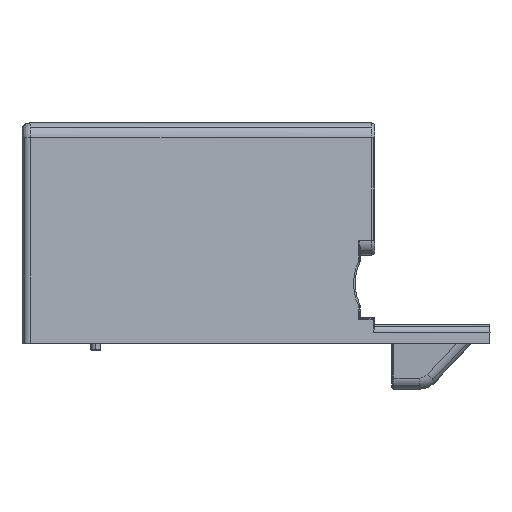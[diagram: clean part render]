
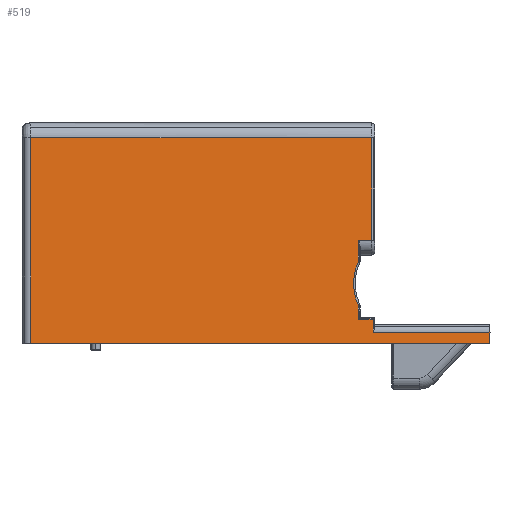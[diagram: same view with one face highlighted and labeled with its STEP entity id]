
A CAD part, left-side view. The second image highlights one B-rep face of the part: STEP entity #519.
In plain terms, the highlighted planar face has unit normal (-0.991, -0.133, 0).
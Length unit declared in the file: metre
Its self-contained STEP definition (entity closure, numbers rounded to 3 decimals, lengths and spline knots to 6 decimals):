
#519=ADVANCED_FACE('0:1061',(#1486),#1487,.T.);
#1486=FACE_OUTER_BOUND('',#7680,.T.);
#1487=PLANE('',#7681);
#7680=EDGE_LOOP('',(#11984,#11985,#11986,#11987,#11988,#11989,#11990,#11991,#11992,#11993,#11994,#11995,#11996,#11997));
#7681=AXIS2_PLACEMENT_3D('',#11998,#11999,#12000);
#11984=ORIENTED_EDGE('',*,*,#12947,.F.);
#11985=ORIENTED_EDGE('',*,*,#13355,.T.);
#11986=ORIENTED_EDGE('',*,*,#13276,.T.);
#11987=ORIENTED_EDGE('',*,*,#13278,.F.);
#11988=ORIENTED_EDGE('',*,*,#12201,.F.);
#11989=ORIENTED_EDGE('',*,*,#13283,.F.);
#11990=ORIENTED_EDGE('',*,*,#13286,.F.);
#11991=ORIENTED_EDGE('',*,*,#13289,.F.);
#11992=ORIENTED_EDGE('',*,*,#13292,.F.);
#11993=ORIENTED_EDGE('',*,*,#12192,.F.);
#11994=ORIENTED_EDGE('',*,*,#13296,.T.);
#11995=ORIENTED_EDGE('',*,*,#13299,.F.);
#11996=ORIENTED_EDGE('',*,*,#13302,.F.);
#11997=ORIENTED_EDGE('',*,*,#13252,.F.);
#11998=CARTESIAN_POINT('',(0.014487,-0.046125,-0.01454));
#11999=DIRECTION('',(-0.991,-0.133,0.));
#12000=DIRECTION('',(0.133,-0.991,0.));
#12192=EDGE_CURVE('0:3590',#13581,#13583,#13584,.T.);
#12201=EDGE_CURVE('0:3545',#13597,#13441,#13599,.T.);
#12947=EDGE_CURVE('0:2231',#14915,#14917,#14918,.T.);
#13252=EDGE_CURVE('0:3428',#14917,#15333,#15334,.T.);
#13276=EDGE_CURVE('0:3512',#15362,#15360,#15363,.T.);
#13278=EDGE_CURVE('0:3527',#13441,#15360,#15365,.T.);
#13283=EDGE_CURVE('0:3554',#15370,#13597,#15372,.T.);
#13286=EDGE_CURVE('0:3563',#15374,#15370,#15376,.T.);
#13289=EDGE_CURVE('0:3572',#15378,#15374,#15380,.T.);
#13292=EDGE_CURVE('0:3581',#13583,#15378,#15383,.T.);
#13296=EDGE_CURVE('0:3596',#13581,#15387,#15389,.T.);
#13299=EDGE_CURVE('0:3614',#15391,#15387,#15393,.T.);
#13302=EDGE_CURVE('0:3620',#15333,#15391,#15396,.T.);
#13355=EDGE_CURVE('0:3815',#14915,#15362,#15462,.T.);
#13441=VERTEX_POINT('',#15566);
#13581=VERTEX_POINT('',#15776);
#13583=VERTEX_POINT('',#15787);
#13584=LINE('',#15788,#15789);
#13597=VERTEX_POINT('',#15805);
#13599=LINE('',#15807,#15808);
#14915=VERTEX_POINT('',#17760);
#14917=VERTEX_POINT('',#17763);
#14918=LINE('',#17764,#17765);
#15333=VERTEX_POINT('',#18736);
#15334=LINE('',#18737,#18738);
#15360=VERTEX_POINT('',#18786);
#15362=VERTEX_POINT('',#18797);
#15363=LINE('',#18798,#18799);
#15365=LINE('',#18801,#18802);
#15370=VERTEX_POINT('',#18808);
#15372=LINE('',#18810,#18811);
#15374=VERTEX_POINT('',#18813);
#15376=ELLIPSE('',#18815,0.000757,0.00075);
#15378=VERTEX_POINT('',#18817);
#15380=ELLIPSE('',#18819,0.007316,0.00725);
#15383=ELLIPSE('',#18822,0.000757,0.00075);
#15387=VERTEX_POINT('',#18836);
#15389=LINE('',#18838,#18839);
#15391=VERTEX_POINT('',#18841);
#15393=LINE('',#18843,#18844);
#15396=LINE('',#18847,#18848);
#15462=LINE('',#18927,#18928);
#15566=CARTESIAN_POINT('',(0.010694,-0.017911,-0.029415));
#15776=CARTESIAN_POINT('',(0.010425,-0.015911,-0.018665));
#15787=CARTESIAN_POINT('',(0.010425,-0.015911,-0.021352));
#15788=CARTESIAN_POINT('',(0.010425,-0.015911,-0.023603));
#15789=VECTOR('',#19195,1.0);
#15805=CARTESIAN_POINT('',(0.010425,-0.015911,-0.029415));
#15807=CARTESIAN_POINT('',(0.012517,-0.031465,-0.029415));
#15808=VECTOR('',#19214,1.0);
#17760=CARTESIAN_POINT('',(0.012834,-0.033826,-0.032665));
#17763=CARTESIAN_POINT('',(0.004423,0.028737,-0.032665));
#17764=CARTESIAN_POINT('',(0.009712,-0.010602,-0.032665));
#17765=VECTOR('',#20440,1.);
#18736=CARTESIAN_POINT('',(0.004423,0.028737,-0.004665));
#18737=CARTESIAN_POINT('',(0.004423,0.028737,-0.023603));
#18738=VECTOR('',#20990,1.0);
#18786=CARTESIAN_POINT('',(0.010694,-0.017911,-0.031165));
#18797=CARTESIAN_POINT('',(0.012834,-0.033826,-0.031165));
#18798=CARTESIAN_POINT('',(0.013215,-0.036658,-0.031165));
#18799=VECTOR('',#21032,1.0);
#18801=CARTESIAN_POINT('',(0.010694,-0.017911,-0.022353));
#18802=VECTOR('',#21036,1.0);
#18808=CARTESIAN_POINT('',(0.010425,-0.015911,-0.027728));
#18810=CARTESIAN_POINT('',(0.010425,-0.015911,-0.023603));
#18811=VECTOR('',#21047,1.0);
#18813=CARTESIAN_POINT('',(0.010417,-0.015848,-0.02743));
#18815=AXIS2_PLACEMENT_3D('',#21054,#21055,#21056);
#18817=CARTESIAN_POINT('',(0.010417,-0.015848,-0.021651));
#18819=AXIS2_PLACEMENT_3D('',#21063,#21064,#21065);
#18822=AXIS2_PLACEMENT_3D('',#21072,#21073,#21074);
#18836=CARTESIAN_POINT('',(0.010665,-0.017694,-0.018665));
#18838=CARTESIAN_POINT('',(0.013613,-0.039618,-0.018665));
#18839=VECTOR('',#21079,1.0);
#18841=CARTESIAN_POINT('',(0.010665,-0.017694,-0.004665));
#18843=CARTESIAN_POINT('',(0.010665,-0.017694,-0.023603));
#18844=VECTOR('',#21086,1.0);
#18847=CARTESIAN_POINT('',(0.009864,-0.011732,-0.004665));
#18848=VECTOR('',#21093,1.);
#18927=CARTESIAN_POINT('',(0.012834,-0.033826,-0.023603));
#18928=VECTOR('',#21224,1.0);
#19195=DIRECTION('',(0.,0.,-1.0));
#19214=DIRECTION('',(0.133,-0.991,0.));
#20440=DIRECTION('',(-0.133,0.991,0.));
#20990=DIRECTION('',(0.,0.,1.0));
#21032=DIRECTION('',(-0.133,0.991,0.));
#21036=DIRECTION('',(0.,0.,-1.0));
#21047=DIRECTION('',(0.,0.,-1.0));
#21054=CARTESIAN_POINT('',(0.010325,-0.015161,-0.027728));
#21055=DIRECTION('',(0.991,0.133,0.));
#21056=DIRECTION('',(0.133,-0.991,0.));
#21063=CARTESIAN_POINT('',(0.011311,-0.022498,-0.02454));
#21064=DIRECTION('',(-0.991,-0.133,0.));
#21065=DIRECTION('',(-0.133,0.991,0.));
#21072=CARTESIAN_POINT('',(0.010325,-0.015161,-0.021352));
#21073=DIRECTION('',(0.991,0.133,0.));
#21074=DIRECTION('',(0.133,-0.991,0.));
#21079=DIRECTION('',(0.133,-0.991,0.));
#21086=DIRECTION('',(0.,0.,-1.0));
#21093=DIRECTION('',(0.133,-0.991,0.));
#21224=DIRECTION('',(0.,0.,1.0));
